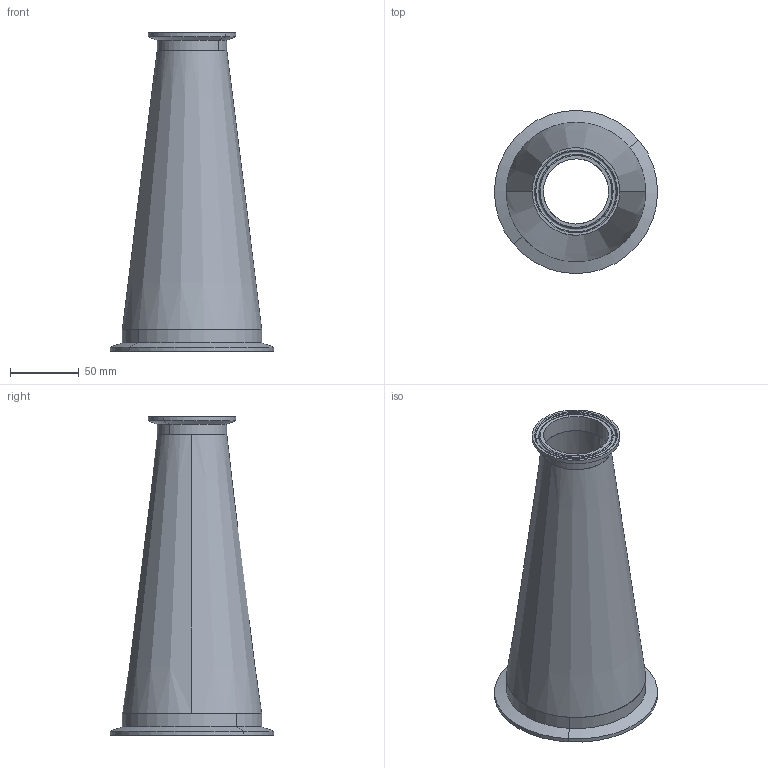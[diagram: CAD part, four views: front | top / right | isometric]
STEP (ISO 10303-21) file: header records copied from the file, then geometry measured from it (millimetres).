
FILE_DESCRIPTION (( 'STEP AP203' ), '1' );
FILE_NAME ('EG31CC4.0X2.0.STEP', '2021-10-04T18:52:23', ( '' ), ( '' ), 'SwSTEP 2.0', 'SolidWorks 2021', '' );
FILE_SCHEMA (( 'CONFIG_CONTROL_DESIGN' ));
Length unit declared in the file: inch
Products named in the file (4): E31WW4.0x2.0; EG2CS2.0; EG2CS4.0; EG31CC4.0X2.0
Assembly tree (3 placements, depth 2):
  EG31CC4.0X2.0
    E31WW4.0x2.0
    EG2CS2.0
    EG2CS4.0
Bounding box: 118.92 x 118.92 x 231.78 mm (x, y, z)
Volume: 109288.2 mm3; surface area: 120472.5 mm2
Topology: 3 solids, 3 shells, 44 faces, 88 edges, 52 vertices
Faces by surface type: cone 12, cylinder 12, torus 12, plane 8
Entity records: 1590 total; most frequent: DIRECTION 252, CARTESIAN_POINT 190, ORIENTED_EDGE 176, AXIS2_PLACEMENT_3D 114, EDGE_CURVE 88, CIRCLE 64, EDGE_LOOP 52, VERTEX_POINT 52
